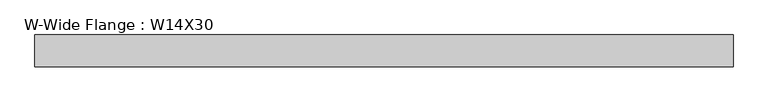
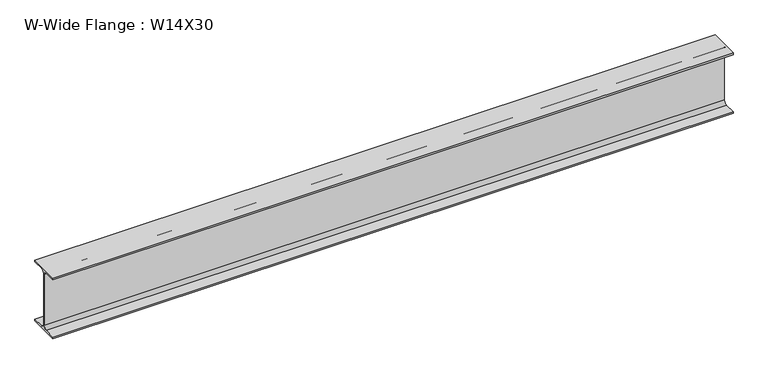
"""IFC4 building model written with IfcOpenShell, lengths in millimetres: beam geometry, W-Wide Flange : W14X30."""

from ifc_helpers import new_model, si_unit, point, frame, frame_2d, origin, place, context, project, spatial, polyline, circle_curve, trimmed, segment, composite_curve, outline, extrude, source, transform, mapped, element, save


def w_wide_flange_w14x30_f0d42ab2(model_context):
    return source(origin(), model_context, "Body", "SweptSolid", [
        extrude(outline(composite_curve([segment(polyline([(85.4769531, -165.9433594), (85.4769531, -175.7660156), (-85.4769531, -175.7660156), (-85.4769531, -165.9433594), (-22.1753906, -165.9433594)]), True, "CONTINUOUS"), segment(trimmed(circle_curve(frame_2d((-22.1753906, -147.1910156)), 18.7523438), [point((-22.1753906, -165.9433594))], [point((-3.4230469, -147.1910156))], True, "CARTESIAN"), True, "CONTINUOUS"), segment(polyline([(-3.4230469, -147.1910156), (-3.4230469, 147.1910156)]), True, "CONTINUOUS"), segment(trimmed(circle_curve(frame_2d((-22.1753906, 147.1910156)), 18.7523438), [point((-3.4230469, 147.1910156))], [point((-22.1753906, 165.9433594))], True, "CARTESIAN"), True, "CONTINUOUS"), segment(polyline([(-22.1753906, 165.9433594), (-85.4769531, 165.9433594), (-85.4769531, 175.7660156), (85.4769531, 175.7660156), (85.4769531, 165.9433594), (22.1753906, 165.9433594)]), True, "CONTINUOUS"), segment(trimmed(circle_curve(frame_2d((22.1753906, 147.1910156)), 18.7523438), [point((22.1753906, 165.9433594))], [point((3.4230469, 147.1910156))], True, "CARTESIAN"), True, "CONTINUOUS"), segment(polyline([(3.4230469, 147.1910156), (3.4230469, -147.1910156)]), True, "CONTINUOUS"), segment(trimmed(circle_curve(frame_2d((22.1753906, -147.1910156)), 18.7523438), [point((3.4230469, -147.1910156))], [point((22.1753906, -165.9433594))], True, "CARTESIAN"), True, "CONTINUOUS"), segment(polyline([(22.1753906, -165.9433594), (85.4769531, -165.9433594)]), True, "CONTINUOUS")], self_intersect=False)), frame((-1863.2895872, 0.0, 0.0), z_axis=(1.0, 0.0, 0.0), x_axis=(0.0, 1.0, 0.0)), (0.0, 0.0, 1.0), 3726.5791744),
    ])


if __name__ == "__main__":
    model = new_model("IFC4")
    model_context = context("Model", 3, world=origin())
    ifc_project = project(units=[si_unit("LENGTHUNIT", "METRE", prefix="MILLI")], contexts=[model_context])
    site = spatial("IfcSite", under=ifc_project)
    building = spatial("IfcBuilding", under=site)
    placement = place(None, origin())
    w_wide_flange_w14x30_shape = w_wide_flange_w14x30_f0d42ab2(model_context)
    element("IfcBeam", 1, ObjectType="W-Wide Flange : W14X30", at=placement, inside=building, context=model_context, shape_type="MappedRepresentation", body=[
        mapped(w_wide_flange_w14x30_shape, transform((0.0, 0.0, 0.0), x_axis=(1.0, 0.0, 0.0), y_axis=(0.0, 1.0, 0.0), z_axis=(0.0, 0.0, 1.0))),
    ])
    save(model, "model.ifc")
